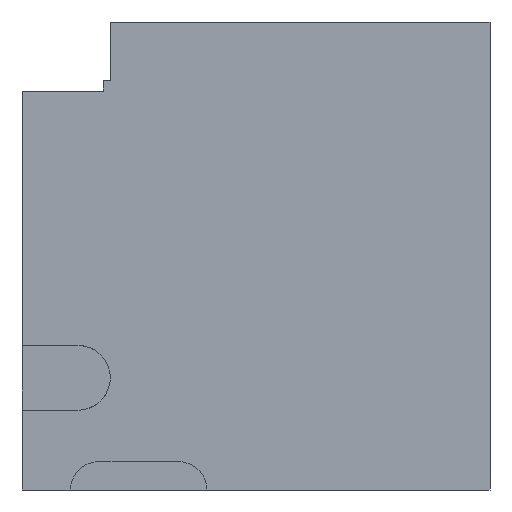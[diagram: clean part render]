
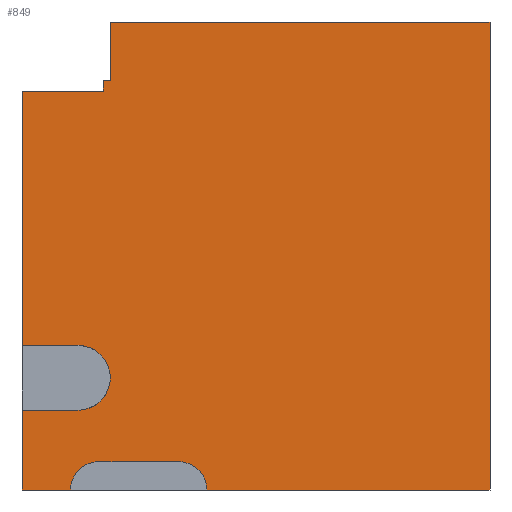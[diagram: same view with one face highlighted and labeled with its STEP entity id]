
A CAD part, left-side view. The second image highlights one B-rep face of the part: STEP entity #849.
In plain terms, the highlighted planar face has unit normal (-1, 0, 0).
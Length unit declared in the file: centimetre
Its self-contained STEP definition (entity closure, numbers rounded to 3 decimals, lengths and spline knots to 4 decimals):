
#2 = VECTOR ( 'NONE', #1104, 100. ) ;
#13 = VERTEX_POINT ( 'NONE', #1439 ) ;
#17 = ORIENTED_EDGE ( 'NONE', *, *, #678, .F. ) ;
#18 = CARTESIAN_POINT ( 'NONE',  ( 0., 1000., 170.424 ) ) ;
#19 = DIRECTION ( 'NONE',  ( 0., -1., 0. ) ) ;
#20 = PLANE ( 'NONE',  #1105 ) ;
#23 = EDGE_CURVE ( 'NONE', #1015, #629, #1214, .T. ) ;
#25 = LINE ( 'NONE', #44, #1072 ) ;
#44 = CARTESIAN_POINT ( 'NONE',  ( 0., 880.5163, 170.424 ) ) ;
#46 = DIRECTION ( 'NONE',  ( 0., 0., -1. ) ) ;
#56 = VERTEX_POINT ( 'NONE', #124 ) ;
#64 = CARTESIAN_POINT ( 'NONE',  ( 0., 880.5163, 170.424 ) ) ;
#73 = ORIENTED_EDGE ( 'NONE', *, *, #1219, .T. ) ;
#79 = DIRECTION ( 'NONE',  ( 0., 1., 0. ) ) ;
#93 = CARTESIAN_POINT ( 'NONE',  ( 0., 1000., 0. ) ) ;
#116 = VERTEX_POINT ( 'NONE', #1349 ) ;
#124 = CARTESIAN_POINT ( 'NONE',  ( 0., 665.6375, 60.5884 ) ) ;
#129 = CARTESIAN_POINT ( 'NONE',  ( 0., 1000., 0. ) ) ;
#132 = EDGE_CURVE ( 'NONE', #1075, #1015, #1022, .T. ) ;
#144 = DIRECTION ( 'NONE',  ( 1., 0., 0. ) ) ;
#176 = CARTESIAN_POINT ( 'NONE',  ( 0., 835.6707, 60.5884 ) ) ;
#179 = CIRCLE ( 'NONE', #593, 60.5884 ) ;
#186 = CARTESIAN_POINT ( 'NONE',  ( 0., 1000., 0. ) ) ;
#190 = CARTESIAN_POINT ( 'NONE',  ( 0., 826.724, 852.1629 ) ) ;
#195 = CARTESIAN_POINT ( 'NONE',  ( 0., 605.0491, 0. ) ) ;
#200 = LINE ( 'NONE', #1470, #1267 ) ;
#228 = EDGE_CURVE ( 'NONE', #56, #932, #307, .T. ) ;
#230 = ORIENTED_EDGE ( 'NONE', *, *, #132, .F. ) ;
#232 = DIRECTION ( 'NONE',  ( 0., 0., -1. ) ) ;
#241 = VERTEX_POINT ( 'NONE', #747 ) ;
#248 = CARTESIAN_POINT ( 'NONE',  ( 0., 1000., 1000. ) ) ;
#252 = ORIENTED_EDGE ( 'NONE', *, *, #278, .F. ) ;
#253 = CARTESIAN_POINT ( 'NONE',  ( 0., 826.724, 852.1629 ) ) ;
#272 = EDGE_LOOP ( 'NONE', ( #519, #712, #1064, #1160, #1157, #861, #230, #1344, #73, #720, #1166, #748, #252, #881, #864, #17 ) ) ;
#278 = EDGE_CURVE ( 'NONE', #699, #56, #179, .T. ) ;
#283 = DIRECTION ( 'NONE',  ( 0., 0., -1. ) ) ;
#299 = EDGE_CURVE ( 'NONE', #674, #116, #615, .T. ) ;
#304 = CARTESIAN_POINT ( 'NONE',  ( 0., 665.6375, 0. ) ) ;
#305 = VERTEX_POINT ( 'NONE', #186 ) ;
#307 = LINE ( 'NONE', #176, #2 ) ;
#333 = DIRECTION ( 'NONE',  ( 0., 0., -1. ) ) ;
#341 = DIRECTION ( 'NONE',  ( 0., 0., -1. ) ) ;
#381 = CARTESIAN_POINT ( 'NONE',  ( 0., 835.6707, 60.5884 ) ) ;
#442 = CARTESIAN_POINT ( 'NONE',  ( 0., 880.5163, 239.666 ) ) ;
#449 = VECTOR ( 'NONE', #1038, 100. ) ;
#460 = DIRECTION ( 'NONE',  ( 0., -1., 0. ) ) ;
#467 = LINE ( 'NONE', #1284, #909 ) ;
#489 = DIRECTION ( 'NONE',  ( 0., -1., 0. ) ) ;
#518 = DIRECTION ( 'NONE',  ( -1., 0., 0. ) ) ;
#519 = ORIENTED_EDGE ( 'NONE', *, *, #1003, .F. ) ;
#527 = VECTOR ( 'NONE', #618, 100. ) ;
#543 = VECTOR ( 'NONE', #1307, 100. ) ;
#561 = AXIS2_PLACEMENT_3D ( 'NONE', #1089, #1137, #983 ) ;
#586 = VERTEX_POINT ( 'NONE', #1068 ) ;
#593 = AXIS2_PLACEMENT_3D ( 'NONE', #304, #518, #283 ) ;
#599 = EDGE_CURVE ( 'NONE', #932, #241, #1385, .T. ) ;
#604 = LINE ( 'NONE', #701, #527 ) ;
#615 = LINE ( 'NONE', #853, #993 ) ;
#618 = DIRECTION ( 'NONE',  ( 0., 0., -1. ) ) ;
#625 = CARTESIAN_POINT ( 'NONE',  ( 0., 810.4654, 875.5097 ) ) ;
#627 = CARTESIAN_POINT ( 'NONE',  ( 0., 1000., 308.908 ) ) ;
#629 = VERTEX_POINT ( 'NONE', #627 ) ;
#674 = VERTEX_POINT ( 'NONE', #190 ) ;
#678 = EDGE_CURVE ( 'NONE', #897, #586, #977, .T. ) ;
#697 = VERTEX_POINT ( 'NONE', #1198 ) ;
#699 = VERTEX_POINT ( 'NONE', #195 ) ;
#701 = CARTESIAN_POINT ( 'NONE',  ( 0., 1000., 1000. ) ) ;
#712 = ORIENTED_EDGE ( 'NONE', *, *, #1376, .F. ) ;
#720 = ORIENTED_EDGE ( 'NONE', *, *, #851, .T. ) ;
#737 = VECTOR ( 'NONE', #79, 100. ) ;
#738 = LINE ( 'NONE', #625, #1125 ) ;
#747 = CARTESIAN_POINT ( 'NONE',  ( 0., 896.259, 0. ) ) ;
#748 = ORIENTED_EDGE ( 'NONE', *, *, #228, .F. ) ;
#784 = DIRECTION ( 'NONE',  ( -1., 0., 0. ) ) ;
#809 = CARTESIAN_POINT ( 'NONE',  ( 0., 810.4654, 1000. ) ) ;
#849 = ADVANCED_FACE ( 'NONE', ( #1165 ), #20, .F. ) ;
#850 = CARTESIAN_POINT ( 'NONE',  ( 0., 0., 1000. ) ) ;
#851 = EDGE_CURVE ( 'NONE', #305, #241, #1142, .T. ) ;
#853 = CARTESIAN_POINT ( 'NONE',  ( 0., 826.724, 852.1629 ) ) ;
#855 = VECTOR ( 'NONE', #19, 100. ) ;
#861 = ORIENTED_EDGE ( 'NONE', *, *, #23, .F. ) ;
#864 = ORIENTED_EDGE ( 'NONE', *, *, #985, .F. ) ;
#871 = VECTOR ( 'NONE', #969, 100. ) ;
#881 = ORIENTED_EDGE ( 'NONE', *, *, #1153, .T. ) ;
#897 = VERTEX_POINT ( 'NONE', #809 ) ;
#909 = VECTOR ( 'NONE', #460, 100. ) ;
#932 = VERTEX_POINT ( 'NONE', #381 ) ;
#969 = DIRECTION ( 'NONE',  ( 0., -1., 0. ) ) ;
#977 = LINE ( 'NONE', #1097, #871 ) ;
#983 = DIRECTION ( 'NONE',  ( 0., 0., -1. ) ) ;
#985 = EDGE_CURVE ( 'NONE', #586, #1143, #1299, .T. ) ;
#993 = VECTOR ( 'NONE', #1431, 100. ) ;
#999 = CARTESIAN_POINT ( 'NONE',  ( 0., 0., 0. ) ) ;
#1003 = EDGE_CURVE ( 'NONE', #13, #897, #738, .T. ) ;
#1015 = VERTEX_POINT ( 'NONE', #1087 ) ;
#1022 = CIRCLE ( 'NONE', #1244, 69.242 ) ;
#1038 = DIRECTION ( 'NONE',  ( 0., -1., 0. ) ) ;
#1064 = ORIENTED_EDGE ( 'NONE', *, *, #1391, .T. ) ;
#1068 = CARTESIAN_POINT ( 'NONE',  ( 0., 0., 1000. ) ) ;
#1072 = VECTOR ( 'NONE', #489, 100. ) ;
#1075 = VERTEX_POINT ( 'NONE', #64 ) ;
#1087 = CARTESIAN_POINT ( 'NONE',  ( 0., 880.5163, 308.908 ) ) ;
#1089 = CARTESIAN_POINT ( 'NONE',  ( 0., 835.6707, 0. ) ) ;
#1096 = DIRECTION ( 'NONE',  ( 0., 0., 1. ) ) ;
#1097 = CARTESIAN_POINT ( 'NONE',  ( 0., 1000., 1000. ) ) ;
#1099 = CARTESIAN_POINT ( 'NONE',  ( 0., 1000., 308.908 ) ) ;
#1100 = EDGE_CURVE ( 'NONE', #116, #629, #200, .T. ) ;
#1104 = DIRECTION ( 'NONE',  ( 0., 1., 0. ) ) ;
#1105 = AXIS2_PLACEMENT_3D ( 'NONE', #248, #144, #46 ) ;
#1114 = LINE ( 'NONE', #93, #855 ) ;
#1125 = VECTOR ( 'NONE', #1096, 100. ) ;
#1137 = DIRECTION ( 'NONE',  ( -1., 0., 0. ) ) ;
#1142 = LINE ( 'NONE', #129, #449 ) ;
#1143 = VERTEX_POINT ( 'NONE', #999 ) ;
#1153 = EDGE_CURVE ( 'NONE', #699, #1143, #1114, .T. ) ;
#1157 = ORIENTED_EDGE ( 'NONE', *, *, #1100, .T. ) ;
#1160 = ORIENTED_EDGE ( 'NONE', *, *, #299, .T. ) ;
#1165 = FACE_OUTER_BOUND ( 'NONE', #272, .T. ) ;
#1166 = ORIENTED_EDGE ( 'NONE', *, *, #599, .F. ) ;
#1198 = CARTESIAN_POINT ( 'NONE',  ( 0., 826.724, 875.5097 ) ) ;
#1214 = LINE ( 'NONE', #1099, #737 ) ;
#1219 = EDGE_CURVE ( 'NONE', #1345, #305, #604, .T. ) ;
#1244 = AXIS2_PLACEMENT_3D ( 'NONE', #442, #784, #232 ) ;
#1267 = VECTOR ( 'NONE', #333, 100. ) ;
#1284 = CARTESIAN_POINT ( 'NONE',  ( 0., 810.4654, 875.5097 ) ) ;
#1299 = LINE ( 'NONE', #850, #543 ) ;
#1307 = DIRECTION ( 'NONE',  ( 0., 0., -1. ) ) ;
#1344 = ORIENTED_EDGE ( 'NONE', *, *, #1359, .F. ) ;
#1345 = VERTEX_POINT ( 'NONE', #18 ) ;
#1349 = CARTESIAN_POINT ( 'NONE',  ( 0., 1000., 852.1629 ) ) ;
#1359 = EDGE_CURVE ( 'NONE', #1345, #1075, #25, .T. ) ;
#1363 = LINE ( 'NONE', #253, #1454 ) ;
#1376 = EDGE_CURVE ( 'NONE', #697, #13, #467, .T. ) ;
#1385 = CIRCLE ( 'NONE', #561, 60.5884 ) ;
#1391 = EDGE_CURVE ( 'NONE', #697, #674, #1363, .T. ) ;
#1431 = DIRECTION ( 'NONE',  ( 0., 1., 0. ) ) ;
#1439 = CARTESIAN_POINT ( 'NONE',  ( 0., 810.4654, 875.5097 ) ) ;
#1454 = VECTOR ( 'NONE', #341, 100. ) ;
#1470 = CARTESIAN_POINT ( 'NONE',  ( 0., 1000., 1000. ) ) ;
